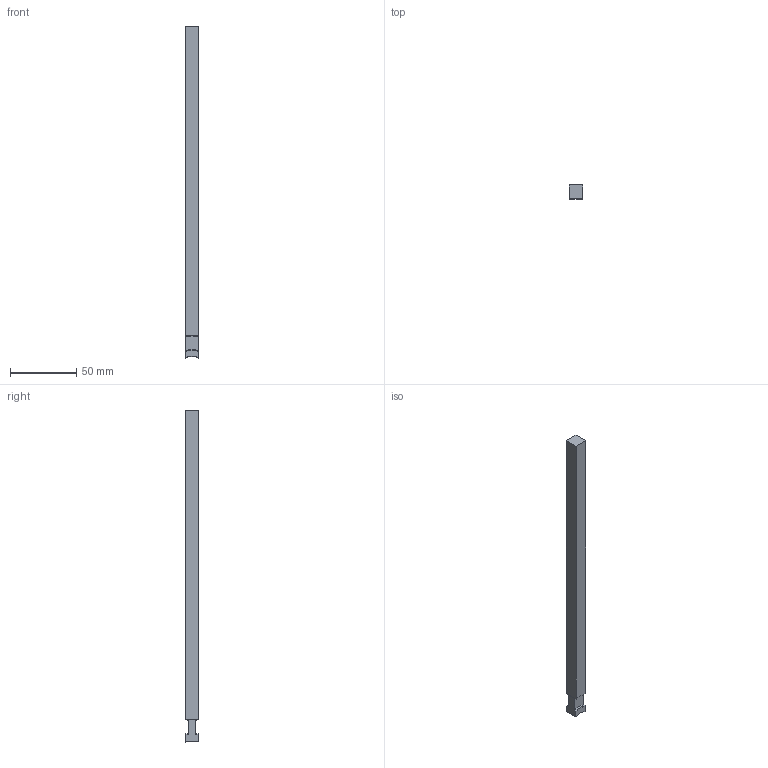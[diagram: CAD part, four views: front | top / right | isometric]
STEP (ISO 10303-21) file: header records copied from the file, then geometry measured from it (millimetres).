
FILE_DESCRIPTION (( 'STEP AP214' ), '1' );
FILE_NAME ('CBMM10X10L250.STEP', '2011-08-03T19:25:34', ( '' ), ( '' ), 'SwSTEP 2.0', 'SolidWorks 2010', '' );
FILE_SCHEMA (( 'AUTOMOTIVE_DESIGN' ));
Length unit declared in the file: millimetre
Products named in the file (1): CBMM10X10L250
Bounding box: 10.25 x 10.25 x 251.16 mm (x, y, z)
Volume: 25779.5 mm3; surface area: 10452.9 mm2
Topology: 1 solids, 1 shells, 37 faces, 97 edges, 62 vertices
Faces by surface type: plane 13, torus 12, cylinder 12
Entity records: 1237 total; most frequent: CARTESIAN_POINT 285, DIRECTION 197, ORIENTED_EDGE 194, EDGE_CURVE 97, AXIS2_PLACEMENT_3D 78, VERTEX_POINT 62, LINE 41, VECTOR 41
